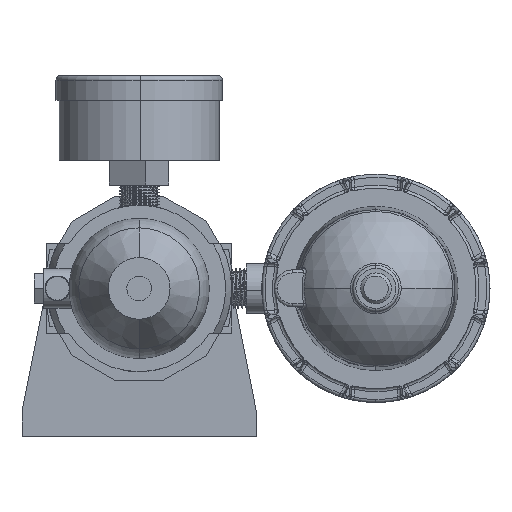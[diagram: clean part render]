
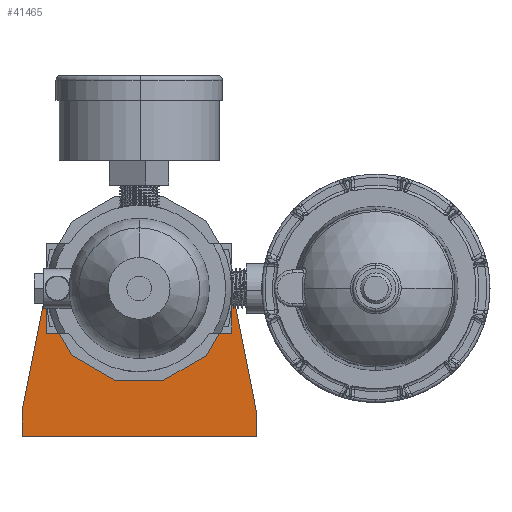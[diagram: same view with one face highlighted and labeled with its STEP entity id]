
A CAD part, front view. The second image highlights one B-rep face of the part: STEP entity #41465.
In plain terms, the highlighted planar face has unit normal (0, -1, 0).
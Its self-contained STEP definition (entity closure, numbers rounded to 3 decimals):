
#582 = DIRECTION ( 'NONE',  ( 0., 0., -1. ) ) ;
#748 = ORIENTED_EDGE ( 'NONE', *, *, #12260, .F. ) ;
#2662 = CARTESIAN_POINT ( 'NONE',  ( 0., 0., 24. ) ) ;
#4700 = DIRECTION ( 'NONE',  ( -1., 0., 0. ) ) ;
#5883 = DIRECTION ( 'NONE',  ( 0., 1., 0. ) ) ;
#5995 = FACE_OUTER_BOUND ( 'NONE', #11192, .T. ) ;
#7979 = DIRECTION ( 'NONE',  ( 0., 0., 1. ) ) ;
#8565 = EDGE_LOOP ( 'NONE', ( #25514, #28495 ) ) ;
#10287 = AXIS2_PLACEMENT_3D ( 'NONE', #30343, #47430, #43280 ) ;
#11171 = CIRCLE ( 'NONE', #10287, 24. ) ;
#11192 = EDGE_LOOP ( 'NONE', ( #748, #31965, #46150, #21411, #52629, #45201 ) ) ;
#11261 = EDGE_CURVE ( 'NONE', #21894, #45577, #47845, .T. ) ;
#11262 = AXIS2_PLACEMENT_3D ( 'NONE', #29919, #47572, #7979 ) ;
#12260 = EDGE_CURVE ( 'NONE', #45577, #50649, #23901, .T. ) ;
#12748 = FACE_BOUND ( 'NONE', #8565, .T. ) ;
#14268 = CARTESIAN_POINT ( 'NONE',  ( -38., 0., -48. ) ) ;
#14463 = CIRCLE ( 'NONE', #38152, 29.5 ) ;
#16443 = CARTESIAN_POINT ( 'NONE',  ( -38., 0., -48. ) ) ;
#17092 = LINE ( 'NONE', #20753, #44909 ) ;
#17399 = VECTOR ( 'NONE', #4700, 1000. ) ;
#18912 = CARTESIAN_POINT ( 'NONE',  ( -38., 0., -40. ) ) ;
#19689 = VERTEX_POINT ( 'NONE', #52436 ) ;
#20753 = CARTESIAN_POINT ( 'NONE',  ( 38., 0., -40. ) ) ;
#21411 = ORIENTED_EDGE ( 'NONE', *, *, #23517, .F. ) ;
#21894 = VERTEX_POINT ( 'NONE', #24124 ) ;
#22888 = DIRECTION ( 'NONE',  ( 0., 0., 1. ) ) ;
#23182 = DIRECTION ( 'NONE',  ( 0., 0., 1. ) ) ;
#23366 = CARTESIAN_POINT ( 'NONE',  ( 0., 0., 0. ) ) ;
#23372 = CARTESIAN_POINT ( 'NONE',  ( -28.937, 0., 5.734 ) ) ;
#23517 = EDGE_CURVE ( 'NONE', #19689, #25778, #23595, .T. ) ;
#23595 = LINE ( 'NONE', #47194, #24886 ) ;
#23901 = LINE ( 'NONE', #56045, #39532 ) ;
#24124 = CARTESIAN_POINT ( 'NONE',  ( -38., 0., -48. ) ) ;
#24886 = VECTOR ( 'NONE', #582, 1000. ) ;
#25514 = ORIENTED_EDGE ( 'NONE', *, *, #45558, .T. ) ;
#25546 = PLANE ( 'NONE',  #11262 ) ;
#25696 = DIRECTION ( 'NONE',  ( 0.194, 0., 0.981 ) ) ;
#25778 = VERTEX_POINT ( 'NONE', #54151 ) ;
#27255 = CARTESIAN_POINT ( 'NONE',  ( 0., 0., 0. ) ) ;
#28096 = VERTEX_POINT ( 'NONE', #37924 ) ;
#28495 = ORIENTED_EDGE ( 'NONE', *, *, #34179, .T. ) ;
#28702 = EDGE_CURVE ( 'NONE', #37911, #19689, #17092, .T. ) ;
#29919 = CARTESIAN_POINT ( 'NONE',  ( 0., 0., 0. ) ) ;
#30343 = CARTESIAN_POINT ( 'NONE',  ( 0., 0., 0. ) ) ;
#31965 = ORIENTED_EDGE ( 'NONE', *, *, #11261, .F. ) ;
#34179 = EDGE_CURVE ( 'NONE', #28096, #51094, #11171, .T. ) ;
#35697 = DIRECTION ( 'NONE',  ( 0., 1., 0. ) ) ;
#36057 = DIRECTION ( 'NONE',  ( 0., 0., 1. ) ) ;
#37602 = CARTESIAN_POINT ( 'NONE',  ( 28.937, 0., 5.734 ) ) ;
#37911 = VERTEX_POINT ( 'NONE', #37602 ) ;
#37924 = CARTESIAN_POINT ( 'NONE',  ( 0., 0., -24. ) ) ;
#38152 = AXIS2_PLACEMENT_3D ( 'NONE', #23366, #35697, #23182 ) ;
#39532 = VECTOR ( 'NONE', #25696, 1000. ) ;
#40482 = LINE ( 'NONE', #16443, #17399 ) ;
#41465 = ADVANCED_FACE ( 'NONE', ( #12748, #5995 ), #25546, .F. ) ;
#42405 = EDGE_CURVE ( 'NONE', #25778, #21894, #40482, .T. ) ;
#43280 = DIRECTION ( 'NONE',  ( 0., 0., 1. ) ) ;
#44822 = AXIS2_PLACEMENT_3D ( 'NONE', #27255, #5883, #22888 ) ;
#44909 = VECTOR ( 'NONE', #51310, 1000. ) ;
#45201 = ORIENTED_EDGE ( 'NONE', *, *, #55670, .F. ) ;
#45558 = EDGE_CURVE ( 'NONE', #51094, #28096, #45586, .T. ) ;
#45577 = VERTEX_POINT ( 'NONE', #18912 ) ;
#45586 = CIRCLE ( 'NONE', #44822, 24. ) ;
#46150 = ORIENTED_EDGE ( 'NONE', *, *, #42405, .F. ) ;
#47194 = CARTESIAN_POINT ( 'NONE',  ( 38., 0., -48. ) ) ;
#47430 = DIRECTION ( 'NONE',  ( 0., 1., 0. ) ) ;
#47572 = DIRECTION ( 'NONE',  ( 0., 1., 0. ) ) ;
#47845 = LINE ( 'NONE', #14268, #49225 ) ;
#49225 = VECTOR ( 'NONE', #36057, 1000. ) ;
#50649 = VERTEX_POINT ( 'NONE', #23372 ) ;
#51094 = VERTEX_POINT ( 'NONE', #2662 ) ;
#51310 = DIRECTION ( 'NONE',  ( 0.194, 0., -0.981 ) ) ;
#52436 = CARTESIAN_POINT ( 'NONE',  ( 38., 0., -40. ) ) ;
#52629 = ORIENTED_EDGE ( 'NONE', *, *, #28702, .F. ) ;
#54151 = CARTESIAN_POINT ( 'NONE',  ( 38., 0., -48. ) ) ;
#55670 = EDGE_CURVE ( 'NONE', #50649, #37911, #14463, .T. ) ;
#56045 = CARTESIAN_POINT ( 'NONE',  ( -38., 0., -40. ) ) ;
